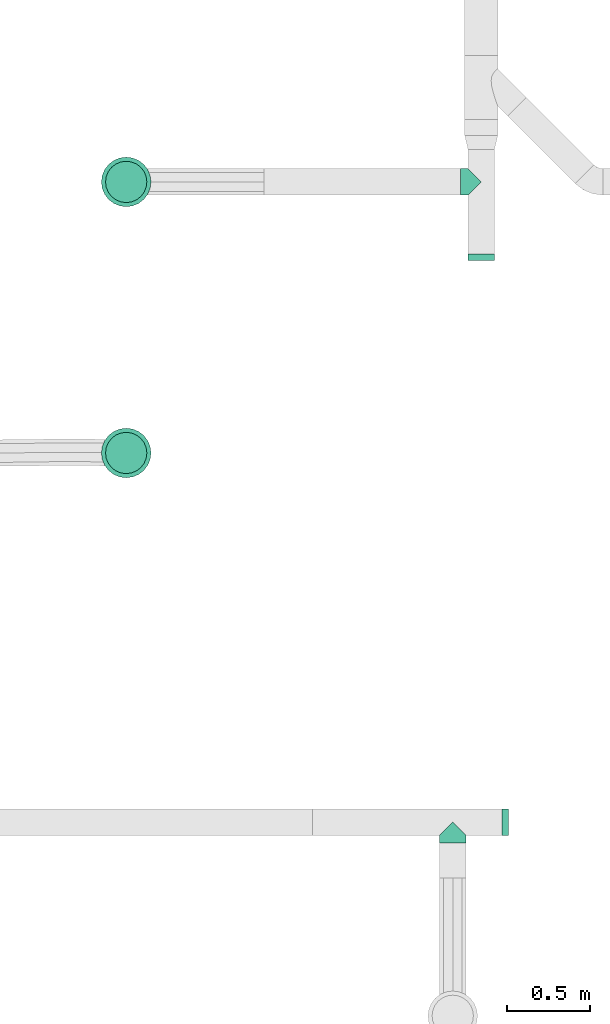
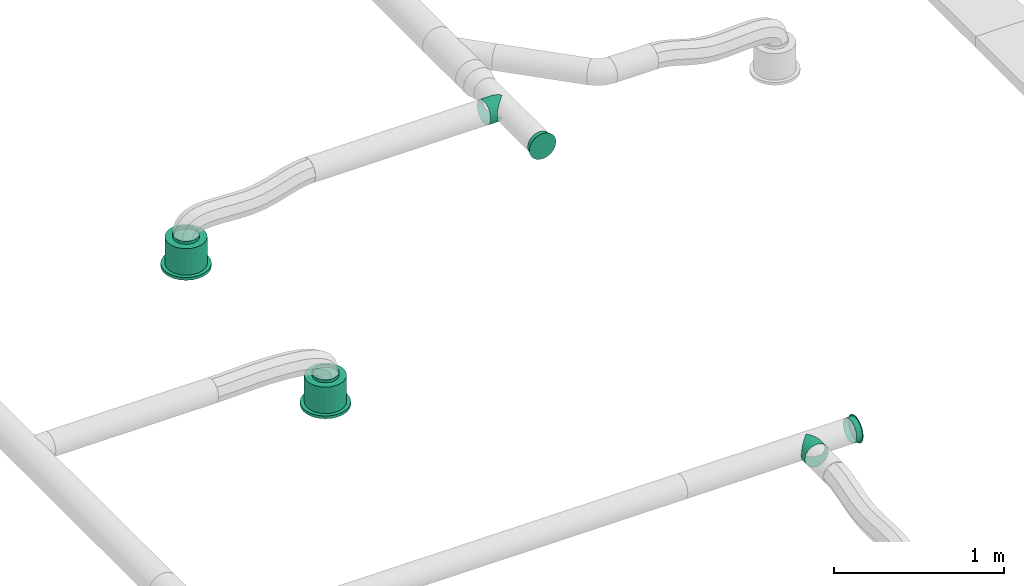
# One storey, part 8 of 119: 2 flow fittings, 2 flow segments, 2 flow terminals.
"""IFC2X3 building model written with IfcOpenShell, lengths in metres."""

from ifc_helpers import new_model, si_unit, direction, frame, origin, place, context, subcontext, project, spatial, open_shell, surface_model, source, transform, mapped, element, save


model = new_model("IFC2X3")

# Units and contexts
model_context = context("Model", 3, precision=1e-05, world=origin(), true_north=direction((-0.4480736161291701, 0.8939966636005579)))
body_context = subcontext(model_context, "Body", "Model", "MODEL_VIEW")
ifc_project = project(units=[si_unit("LENGTHUNIT", "METRE"), si_unit("AREAUNIT", "SQUARE_METRE"), si_unit("VOLUMEUNIT", "CUBIC_METRE"), si_unit("PLANEANGLEUNIT", "RADIAN"), si_unit("THERMODYNAMICTEMPERATUREUNIT", "KELVIN"), si_unit("MASSUNIT", "GRAM", prefix="KILO"), si_unit("TIMEUNIT", "SECOND")], contexts=[model_context])

# Site, building, storey
site_placement = place(None, origin())
site = spatial("IfcSite", under=ifc_project, at=site_placement, Name="Site 1", CompositionType="ELEMENT")
building_placement = place(site_placement, origin())
building = spatial("IfcBuilding", under=site, at=building_placement, Name="Undefined", CompositionType="ELEMENT")
storey_placement = place(building_placement, frame((0.0, 0.0, 5.4)))
storey = spatial("IfcBuildingStorey", under=building, at=storey_placement, Name="R+1", CompositionType="ELEMENT", Elevation=5.4)

# Flow terminals
shared_shape_1 = source(origin(), body_context, "Body", "SurfaceModel", [
    surface_model("IfcFaceBasedSurfaceModel", [(0.0, 0.0, 0.0), (0.03915785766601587, 0.0, 0.0), (0.03915785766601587, 0.020000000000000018, 0.0), (3.552713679e-15, 0.020000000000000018, 0.0), (0.07698144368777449, 0.0, -0.010134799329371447), (0.07698144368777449, 0.020000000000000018, -0.010134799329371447), (0.11089314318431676, 0.0, -0.02971372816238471), (0.11089314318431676, 0.020000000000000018, -0.02971372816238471), (0.13858192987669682, 0.0, -0.05740251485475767), (0.13858192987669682, 0.020000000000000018, -0.05740251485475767), (0.15816085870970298, 0.0, -0.09131421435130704), (0.15816085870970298, 0.020000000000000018, -0.09131421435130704), (0.16829565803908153, 0.0, -0.12913780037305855), (0.16829565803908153, 0.020000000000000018, -0.12913780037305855), (0.16829565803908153, 0.0, -0.16829565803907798), (0.16829565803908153, 0.020000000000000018, -0.16829565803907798), (0.15816085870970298, 0.0, -0.20611924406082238), (0.15816085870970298, 0.020000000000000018, -0.20611924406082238), (0.13858192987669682, 0.0, -0.24003094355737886), (0.13858192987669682, 0.020000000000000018, -0.24003094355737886), (0.11089314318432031, 0.0, -0.2677197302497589), (0.11089314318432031, 0.020000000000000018, -0.2677197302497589), (0.07698144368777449, 0.0, -0.2872986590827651), (0.07698144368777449, 0.020000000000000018, -0.2872986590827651), (0.039157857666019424, 0.0, -0.29743345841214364), (0.039157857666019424, 0.020000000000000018, -0.29743345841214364), (3.552713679e-15, 0.0, -0.29743345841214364), (3.552713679e-15, 0.020000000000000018, -0.29743345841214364), (-0.03782358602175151, 0.0, -0.2872986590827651), (-0.03782358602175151, 0.020000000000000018, -0.2872986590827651), (-0.07173528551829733, 0.0, -0.2677197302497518), (-0.07173528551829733, 0.020000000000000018, -0.2677197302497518), (-0.0994240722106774, 0.0, -0.24003094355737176), (-0.0994240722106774, 0.020000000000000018, -0.24003094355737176), (-0.11900300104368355, 0.0, -0.2061192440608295), (-0.11900300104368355, 0.020000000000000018, -0.2061192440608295), (-0.1291378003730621, 0.0, -0.16829565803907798), (-0.1291378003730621, 0.020000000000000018, -0.16829565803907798), (-0.1291378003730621, 0.0, -0.12913780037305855), (-0.1291378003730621, 0.020000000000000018, -0.12913780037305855), (-0.11900300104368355, 0.0, -0.09131421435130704), (-0.11900300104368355, 0.020000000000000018, -0.09131421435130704), (-0.0994240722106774, 0.0, -0.05740251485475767), (-0.0994240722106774, 0.020000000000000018, -0.05740251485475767), (-0.07173528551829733, 0.0, -0.029713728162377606), (-0.07173528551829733, 0.020000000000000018, -0.029713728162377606), (-0.03782358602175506, 0.0, -0.010134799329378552), (-0.03782358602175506, 0.020000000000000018, -0.010134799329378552), (0.019578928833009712, 0.0, -0.14871672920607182), (0.019578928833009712, 0.020000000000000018, -0.14871672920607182), (0.003263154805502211, 0.020000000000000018, -0.02478612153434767), (0.035894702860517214, 0.020000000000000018, -0.02478612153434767), (0.035894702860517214, 0.20999999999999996, -0.02478612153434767), (0.003263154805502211, 0.20999999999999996, -0.02478612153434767), (0.06741435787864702, 0.020000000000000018, -0.033231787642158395), (0.06741435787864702, 0.20999999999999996, -0.033231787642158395), (0.0956741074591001, 0.020000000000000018, -0.04954756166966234), (0.0956741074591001, 0.20999999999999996, -0.04954756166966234), (0.11874809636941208, 0.020000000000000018, -0.07262155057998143), (0.11874809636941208, 0.20999999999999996, -0.07262155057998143), (0.13506387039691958, 0.020000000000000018, -0.10088130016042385), (0.13506387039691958, 0.20999999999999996, -0.10088130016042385), (0.1435095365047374, 0.020000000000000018, -0.13240095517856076), (0.1435095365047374, 0.20999999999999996, -0.13240095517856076), (0.1435095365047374, 0.020000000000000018, -0.16503250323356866), (0.1435095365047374, 0.20999999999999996, -0.16503250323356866), (0.13506387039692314, 0.020000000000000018, -0.19655215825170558), (0.13506387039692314, 0.20999999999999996, -0.19655215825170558), (0.11874809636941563, 0.020000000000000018, -0.2248119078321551), (0.11874809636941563, 0.20999999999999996, -0.2248119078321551), (0.09567410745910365, 0.020000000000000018, -0.24788589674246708), (0.09567410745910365, 0.20999999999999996, -0.24788589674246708), (0.06741435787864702, 0.020000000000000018, -0.26420167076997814), (0.06741435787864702, 0.20999999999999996, -0.26420167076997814), (0.035894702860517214, 0.020000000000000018, -0.27264733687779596), (0.035894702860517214, 0.20999999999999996, -0.27264733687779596), (0.0032631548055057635, 0.020000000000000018, -0.27264733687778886), (0.0032631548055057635, 0.20999999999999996, -0.27264733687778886), (-0.028256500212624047, 0.020000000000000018, -0.26420167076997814), (-0.028256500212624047, 0.20999999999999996, -0.26420167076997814), (-0.05651624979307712, 0.020000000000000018, -0.2478858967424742), (-0.05651624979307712, 0.20999999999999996, -0.2478858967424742), (-0.07959023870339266, 0.020000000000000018, -0.2248119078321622), (-0.07959023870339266, 0.20999999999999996, -0.2248119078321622), (-0.09590601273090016, 0.020000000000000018, -0.19655215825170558), (-0.09590601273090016, 0.20999999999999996, -0.19655215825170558), (-0.10435167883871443, 0.020000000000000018, -0.16503250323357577), (-0.10435167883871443, 0.20999999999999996, -0.16503250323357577), (-0.10435167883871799, 0.020000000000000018, -0.13240095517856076), (-0.10435167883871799, 0.20999999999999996, -0.13240095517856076), (-0.09590601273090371, 0.020000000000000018, -0.10088130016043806), (-0.09590601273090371, 0.20999999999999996, -0.10088130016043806), (-0.07959023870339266, 0.020000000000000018, -0.07262155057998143), (-0.07959023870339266, 0.20999999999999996, -0.07262155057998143), (-0.056516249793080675, 0.020000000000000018, -0.04954756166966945), (-0.056516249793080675, 0.20999999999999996, -0.04954756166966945), (-0.028256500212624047, 0.020000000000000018, -0.033231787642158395), (-0.028256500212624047, 0.20999999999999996, -0.033231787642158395), (0.019578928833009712, 0.20999999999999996, -0.14871672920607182), (0.009136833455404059, 0.20999999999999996, -0.06940114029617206), (0.030021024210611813, 0.20999999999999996, -0.06940114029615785), (0.030021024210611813, 0.22999999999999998, -0.06940114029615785), (0.009136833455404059, 0.22999999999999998, -0.06940114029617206), (0.05019360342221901, 0.20999999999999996, -0.07480636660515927), (0.05019360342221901, 0.22999999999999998, -0.07480636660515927), (0.06827984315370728, 0.20999999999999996, -0.08524846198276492), (0.06827984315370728, 0.22999999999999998, -0.08524846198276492), (0.0830471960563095, 0.20999999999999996, -0.10001581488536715), (0.0830471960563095, 0.22999999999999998, -0.10001581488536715), (0.0934892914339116, 0.20999999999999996, -0.11810205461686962), (0.0934892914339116, 0.22999999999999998, -0.11810205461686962), (0.09889451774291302, 0.20999999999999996, -0.13827463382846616), (0.09889451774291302, 0.22999999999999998, -0.13827463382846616), (0.09889451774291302, 0.20999999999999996, -0.15915882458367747), (0.09889451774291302, 0.22999999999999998, -0.15915882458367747), (0.09348929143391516, 0.20999999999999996, -0.179331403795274), (0.09348929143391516, 0.22999999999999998, -0.179331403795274), (0.0830471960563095, 0.20999999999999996, -0.19741764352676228), (0.0830471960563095, 0.22999999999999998, -0.19741764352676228), (0.06827984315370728, 0.20999999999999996, -0.2121849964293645), (0.06827984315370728, 0.22999999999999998, -0.2121849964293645), (0.05019360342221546, 0.20999999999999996, -0.22262709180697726), (0.05019360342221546, 0.22999999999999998, -0.22262709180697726), (0.030021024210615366, 0.20999999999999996, -0.22803231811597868), (0.030021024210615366, 0.22999999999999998, -0.22803231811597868), (0.009136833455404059, 0.20999999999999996, -0.22803231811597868), (0.009136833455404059, 0.22999999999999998, -0.22803231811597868), (-0.011035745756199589, 0.20999999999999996, -0.22262709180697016), (-0.011035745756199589, 0.22999999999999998, -0.22262709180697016), (-0.0291219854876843, 0.20999999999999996, -0.2121849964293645), (-0.0291219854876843, 0.22999999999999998, -0.2121849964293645), (-0.043889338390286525, 0.20999999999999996, -0.19741764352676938), (-0.043889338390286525, 0.22999999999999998, -0.19741764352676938), (-0.05433143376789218, 0.20999999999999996, -0.17933140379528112), (-0.05433143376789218, 0.22999999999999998, -0.17933140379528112), (-0.05973666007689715, 0.20999999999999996, -0.15915882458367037), (-0.05973666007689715, 0.22999999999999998, -0.15915882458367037), (-0.0597366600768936, 0.20999999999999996, -0.13827463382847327), (-0.0597366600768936, 0.22999999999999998, -0.13827463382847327), (-0.05433143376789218, 0.20999999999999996, -0.11810205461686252), (-0.05433143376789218, 0.22999999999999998, -0.11810205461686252), (-0.043889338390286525, 0.20999999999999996, -0.10001581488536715), (-0.043889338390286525, 0.22999999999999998, -0.10001581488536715), (-0.02912198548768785, 0.20999999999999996, -0.08524846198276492), (-0.02912198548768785, 0.22999999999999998, -0.08524846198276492), (-0.011035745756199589, 0.20999999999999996, -0.07480636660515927), (-0.011035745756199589, 0.22999999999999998, -0.07480636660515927)], [open_shell([[[0, 1, 2, 3]], [[1, 4, 5, 2]], [[4, 6, 7, 5]], [[6, 8, 9, 7]], [[8, 10, 11, 9]], [[10, 12, 13, 11]], [[12, 14, 15, 13]], [[14, 16, 17, 15]], [[16, 18, 19, 17]], [[18, 20, 21, 19]], [[20, 22, 23, 21]], [[22, 24, 25, 23]], [[24, 26, 27, 25]], [[26, 28, 29, 27]], [[28, 30, 31, 29]], [[30, 32, 33, 31]], [[32, 34, 35, 33]], [[34, 36, 37, 35]], [[36, 38, 39, 37]], [[38, 40, 41, 39]], [[40, 42, 43, 41]], [[42, 44, 45, 43]], [[44, 46, 47, 45]], [[46, 0, 3, 47]], [[48, 1, 0]], [[48, 4, 1]], [[48, 6, 4]], [[48, 8, 6]], [[48, 10, 8]], [[48, 12, 10]], [[48, 14, 12]], [[48, 16, 14]], [[48, 18, 16]], [[48, 20, 18]], [[48, 22, 20]], [[48, 24, 22]], [[48, 26, 24]], [[48, 28, 26]], [[48, 30, 28]], [[48, 32, 30]], [[48, 34, 32]], [[48, 36, 34]], [[48, 38, 36]], [[48, 40, 38]], [[48, 42, 40]], [[48, 44, 42]], [[48, 46, 44]], [[48, 0, 46]], [[49, 47, 3]], [[49, 45, 47]], [[49, 43, 45]], [[49, 41, 43]], [[49, 39, 41]], [[49, 37, 39]], [[49, 35, 37]], [[49, 33, 35]], [[49, 31, 33]], [[49, 29, 31]], [[49, 27, 29]], [[49, 25, 27]], [[49, 23, 25]], [[49, 21, 23]], [[49, 19, 21]], [[49, 17, 19]], [[49, 15, 17]], [[49, 13, 15]], [[49, 11, 13]], [[49, 9, 11]], [[49, 7, 9]], [[49, 5, 7]], [[49, 2, 5]], [[49, 3, 2]], [[50, 51, 52, 53]], [[51, 54, 55, 52]], [[54, 56, 57, 55]], [[56, 58, 59, 57]], [[58, 60, 61, 59]], [[60, 62, 63, 61]], [[62, 64, 65, 63]], [[64, 66, 67, 65]], [[66, 68, 69, 67]], [[68, 70, 71, 69]], [[70, 72, 73, 71]], [[72, 74, 75, 73]], [[74, 76, 77, 75]], [[76, 78, 79, 77]], [[78, 80, 81, 79]], [[80, 82, 83, 81]], [[82, 84, 85, 83]], [[84, 86, 87, 85]], [[86, 88, 89, 87]], [[88, 90, 91, 89]], [[90, 92, 93, 91]], [[92, 94, 95, 93]], [[94, 96, 97, 95]], [[96, 50, 53, 97]], [[49, 51, 50]], [[49, 54, 51]], [[49, 56, 54]], [[49, 58, 56]], [[49, 60, 58]], [[49, 62, 60]], [[49, 64, 62]], [[49, 66, 64]], [[49, 68, 66]], [[49, 70, 68]], [[49, 72, 70]], [[49, 74, 72]], [[49, 76, 74]], [[49, 78, 76]], [[49, 80, 78]], [[49, 82, 80]], [[49, 84, 82]], [[49, 86, 84]], [[49, 88, 86]], [[49, 90, 88]], [[49, 92, 90]], [[49, 94, 92]], [[49, 96, 94]], [[49, 50, 96]], [[98, 97, 53]], [[98, 95, 97]], [[98, 93, 95]], [[98, 91, 93]], [[98, 89, 91]], [[98, 87, 89]], [[98, 85, 87]], [[98, 83, 85]], [[98, 81, 83]], [[98, 79, 81]], [[98, 77, 79]], [[98, 75, 77]], [[98, 73, 75]], [[98, 71, 73]], [[98, 69, 71]], [[98, 67, 69]], [[98, 65, 67]], [[98, 63, 65]], [[98, 61, 63]], [[98, 59, 61]], [[98, 57, 59]], [[98, 55, 57]], [[98, 52, 55]], [[98, 53, 52]], [[99, 100, 101, 102]], [[100, 103, 104, 101]], [[103, 105, 106, 104]], [[105, 107, 108, 106]], [[107, 109, 110, 108]], [[109, 111, 112, 110]], [[111, 113, 114, 112]], [[113, 115, 116, 114]], [[115, 117, 118, 116]], [[117, 119, 120, 118]], [[119, 121, 122, 120]], [[121, 123, 124, 122]], [[123, 125, 126, 124]], [[125, 127, 128, 126]], [[127, 129, 130, 128]], [[129, 131, 132, 130]], [[131, 133, 134, 132]], [[133, 135, 136, 134]], [[135, 137, 138, 136]], [[137, 139, 140, 138]], [[139, 141, 142, 140]], [[141, 143, 144, 142]], [[143, 145, 146, 144]], [[145, 99, 102, 146]]])]),
])
flow_terminal_1_placement = place(storey_placement, origin())
element("IfcFlowTerminal", 1, at=flow_terminal_1_placement, inside=storey, Name="Air diffuseur - bouche", ObjectType="Air diffuseur - bouche", context=body_context, shape_type="MappedRepresentation", body=[
    mapped(shared_shape_1, transform((4.46331471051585, 10.925483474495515, 2.38), x_axis=(-0.13052619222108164, 0.9914448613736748, 0.0), y_axis=(0.0, 0.0, 1.0), z_axis=(0.9914448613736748, 0.13052619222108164, 0.0))),
])
flow_terminal_2_placement = place(storey_placement, origin())
element("IfcFlowTerminal", 2, at=flow_terminal_2_placement, inside=storey, Name="Air diffuseur - bouche", ObjectType="Air diffuseur - bouche", context=body_context, shape_type="MappedRepresentation", body=[
    mapped(shared_shape_1, transform((4.463314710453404, 9.28536999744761, 2.38), x_axis=(-0.13052619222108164, 0.9914448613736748, 0.0), y_axis=(0.0, 0.0, 1.0), z_axis=(0.9914448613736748, 0.13052619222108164, 0.0))),
])

# Flow segments
shared_shape_2 = source(origin(), body_context, "Body", "SurfaceModel", [
    surface_model("IfcFaceBasedSurfaceModel", [(0.0027259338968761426, 0.020884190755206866, 0.0), (0.0, 0.0, 0.0), (0.04772593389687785, 0.0, 0.0), (0.04772593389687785, 0.020884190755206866, 0.0), (-0.007992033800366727, -0.02017257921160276, -0.005405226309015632), (0.04772593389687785, -0.02017257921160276, -0.005405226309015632), (-0.020705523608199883, -0.038258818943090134, -0.015847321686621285), (0.04772593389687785, -0.038258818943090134, -0.015847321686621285), (-0.037274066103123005, -0.05302617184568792, -0.03061467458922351), (0.04772593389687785, -0.05302617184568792, -0.03061467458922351), (-0.05656854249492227, -0.06346826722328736, -0.04870091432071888), (0.04772593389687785, -0.06346826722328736, -0.04870091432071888), (-0.07727406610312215, -0.06887349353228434, -0.06887349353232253), (0.04772593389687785, -0.06887349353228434, -0.06887349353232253), (-0.05656854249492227, -0.06887349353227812, -0.08975768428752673), (0.04772593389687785, -0.06887349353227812, -0.08975768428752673), (-0.037274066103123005, -0.06346826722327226, -0.10993026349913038), (0.04772593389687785, -0.06346826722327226, -0.10993026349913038), (-0.020705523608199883, -0.05302617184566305, -0.12801650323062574), (0.04772593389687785, -0.05302617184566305, -0.12801650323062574), (-0.007992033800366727, -0.03825881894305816, -0.14278385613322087), (0.04772593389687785, -0.03825881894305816, -0.14278385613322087), (0.0, -0.020172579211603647, -0.15322595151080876), (0.04772593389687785, -0.020172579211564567, -0.1532259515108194), (0.0027259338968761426, 3.9968028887e-14, -0.15863117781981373), (0.04772593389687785, 3.9968028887e-14, -0.15863117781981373), (0.0, 0.020884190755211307, -0.15863117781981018), (0.04772593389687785, 0.020884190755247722, -0.15863117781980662), (-0.007992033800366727, 0.04105676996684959, -0.1532259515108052), (0.04772593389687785, 0.04105676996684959, -0.1532259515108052), (-0.020705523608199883, 0.05914300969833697, -0.14278385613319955), (0.04772593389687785, 0.05914300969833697, -0.14278385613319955), (-0.037274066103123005, 0.07391036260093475, -0.1280165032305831), (0.04772593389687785, 0.07391036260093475, -0.1280165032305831), (-0.05656854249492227, 0.08435245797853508, -0.10993026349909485), (0.04772593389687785, 0.08435245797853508, -0.10993026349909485), (-0.07727406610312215, 0.08975768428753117, -0.0897576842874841), (0.04772593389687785, 0.08975768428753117, -0.0897576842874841), (-0.05656854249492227, 0.08975768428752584, -0.068873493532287), (0.04772593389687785, 0.08975768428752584, -0.068873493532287), (-0.037274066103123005, 0.0843524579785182, -0.04870091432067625), (0.04772593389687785, 0.0843524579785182, -0.04870091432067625), (-0.020705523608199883, 0.07391036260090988, -0.03061467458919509), (0.04772593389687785, 0.07391036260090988, -0.03061467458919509), (-0.007992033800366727, 0.059143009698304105, -0.01584732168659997), (0.04772593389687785, 0.059143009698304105, -0.01584732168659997), (0.0, 0.04105676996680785, -0.005405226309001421), (0.04772593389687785, 0.04105676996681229, -0.00540522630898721)], [open_shell([[[0, 1, 2, 3]], [[1, 4, 5, 2]], [[4, 6, 7, 5]], [[6, 8, 9, 7]], [[8, 10, 11, 9]], [[10, 12, 13, 11]], [[12, 14, 15, 13]], [[14, 16, 17, 15]], [[16, 18, 19, 17]], [[18, 20, 21, 19]], [[20, 22, 23, 21]], [[22, 24, 25, 23]], [[24, 26, 27, 25]], [[26, 28, 29, 27]], [[28, 30, 31, 29]], [[30, 32, 33, 31]], [[32, 34, 35, 33]], [[34, 36, 37, 35]], [[36, 38, 39, 37]], [[38, 40, 41, 39]], [[40, 42, 43, 41]], [[42, 44, 45, 43]], [[44, 46, 47, 45]], [[46, 0, 3, 47]]])]),
])
flow_segment_1_placement = place(storey_placement, origin())
element("IfcFlowSegment", 3, at=flow_segment_1_placement, inside=storey, Name="Piquage équerre circulaire", ObjectType="Piquage équerre circulaire", context=body_context, shape_type="MappedRepresentation", body=[
    mapped(shared_shape_2, transform((6.366512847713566, 6.974083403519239, 2.7707055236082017), x_axis=(0.0, -1.0, 0.0), y_axis=(0.130526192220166, 0.0, -0.9914448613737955), z_axis=(0.9914448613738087, 0.0, 0.13052619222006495))),
])
flow_segment_2_placement = place(storey_placement, origin())
element("IfcFlowSegment", 4, at=flow_segment_2_placement, inside=storey, Name="Piquage équerre circulaire", ObjectType="Piquage équerre circulaire", context=body_context, shape_type="MappedRepresentation", body=[
    mapped(shared_shape_2, transform((6.38438815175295, 10.848209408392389, 2.7957055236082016), x_axis=(-1.0, 0.0, 0.0), y_axis=(9.56658874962e-13, -0.13052619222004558, -0.9914448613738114), z_axis=(7.266545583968e-12, -0.9914448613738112, 0.13052619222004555))),
])

# Flow fittings
shared_shape_3 = source(origin(), body_context, "Body", "SurfaceModel", [
    surface_model("IfcFaceBasedSurfaceModel", [(0.0, 0.020884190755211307, 0.0), (0.0, 0.0, 0.0), (0.0394000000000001, 0.0, 0.0), (0.039400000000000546, 0.020884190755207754, 8.8817842e-16), (0.0, -0.020172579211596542, -0.005405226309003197), (0.039400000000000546, -0.020172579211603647, -0.005405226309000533), (0.0, -0.03825881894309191, -0.015847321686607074), (0.039400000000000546, -0.03825881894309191, -0.015847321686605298), (0.0, -0.05302617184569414, -0.0306146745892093), (0.039400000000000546, -0.05302617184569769, -0.030614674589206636), (0.0, -0.06346826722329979, -0.04870091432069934), (0.039400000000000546, -0.06346826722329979, -0.048700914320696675), (0.0, -0.06887349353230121, -0.06887349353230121), (0.039400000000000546, -0.06887349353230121, -0.06887349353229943), (0.0, -0.06887349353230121, -0.08975768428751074), (0.039400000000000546, -0.06887349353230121, -0.08975768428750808), (0.0, -0.06346826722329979, -0.10993026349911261), (0.039400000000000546, -0.06346826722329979, -0.10993026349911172), (0.0, -0.05302617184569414, -0.12801650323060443), (0.039400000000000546, -0.05302617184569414, -0.12801650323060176), (0.0, -0.038258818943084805, -0.14278385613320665), (0.039400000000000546, -0.03825881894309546, -0.1427838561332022), (0.0, -0.020172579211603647, -0.15322595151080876), (0.039400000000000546, -0.020172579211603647, -0.1532259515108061), (0.0, 7.105427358e-15, -0.15863117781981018), (0.039400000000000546, 0.0, -0.1586311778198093), (0.0, 0.020884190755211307, -0.15863117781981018), (0.039400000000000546, 0.020884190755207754, -0.1586311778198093), (0.0, 0.04105676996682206, -0.15322595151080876), (0.039400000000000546, 0.04105676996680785, -0.15322595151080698), (0.0, 0.05914300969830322, -0.1427838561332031), (0.039400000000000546, 0.059143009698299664, -0.1427838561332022), (0.0, 0.07391036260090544, -0.12801650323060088), (0.039400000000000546, 0.07391036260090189, -0.12801650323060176), (0.0, 0.0843524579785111, -0.10993026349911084), (0.039400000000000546, 0.08435245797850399, -0.10993026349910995), (0.0, 0.08975768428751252, -0.08975768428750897), (0.039400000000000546, 0.08975768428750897, -0.08975768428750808), (0.0, 0.08975768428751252, -0.06887349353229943), (0.039400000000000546, 0.08975768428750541, -0.06887349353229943), (0.0, 0.0843524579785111, -0.048700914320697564), (0.039400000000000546, 0.08435245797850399, -0.048700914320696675), (0.0, 0.07391036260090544, -0.030614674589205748), (0.039400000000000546, 0.07391036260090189, -0.030614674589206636), (0.0, 0.05914300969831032, -0.015847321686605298), (0.039400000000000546, 0.059143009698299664, -0.015847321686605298), (0.0, 0.04105676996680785, -0.005405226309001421), (0.039400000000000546, 0.0410567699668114, -0.005405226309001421), (0.039400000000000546, 0.022254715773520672, 0.010410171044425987), (0.0394000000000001, -0.0013705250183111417, 0.010410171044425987), (0.040000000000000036, -0.0013705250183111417, 0.010410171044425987), (0.03999999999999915, 0.022254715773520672, 0.010410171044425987), (0.039400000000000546, -0.0241907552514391, 0.0042955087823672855), (0.03999999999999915, -0.0241907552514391, 0.0042955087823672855), (0.039400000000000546, -0.044650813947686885, -0.007517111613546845), (0.03999999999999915, -0.044650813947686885, -0.007517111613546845), (0.039400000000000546, -0.06135638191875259, -0.024222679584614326), (0.03999999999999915, -0.06135638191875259, -0.024222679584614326), (0.039400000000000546, -0.07316900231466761, -0.044682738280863), (0.03999999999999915, -0.07316900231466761, -0.044682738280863), (0.039400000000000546, -0.07928366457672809, -0.06750296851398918), (0.03999999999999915, -0.07928366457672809, -0.06750296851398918), (0.039400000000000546, -0.07928366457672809, -0.09112820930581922), (0.03999999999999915, -0.07928366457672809, -0.09112820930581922), (0.039400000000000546, -0.07316900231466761, -0.11394843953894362), (0.03999999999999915, -0.07316900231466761, -0.11394843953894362), (0.039400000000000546, -0.06135638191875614, -0.13440849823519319), (0.03999999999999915, -0.06135638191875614, -0.13440849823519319), (0.039400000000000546, -0.044650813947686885, -0.15111406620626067), (0.03999999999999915, -0.044650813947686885, -0.15111406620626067), (0.039400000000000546, -0.0241907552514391, -0.16292668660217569), (0.03999999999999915, -0.0241907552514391, -0.16292668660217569), (0.039400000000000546, -0.0013705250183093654, -0.1690413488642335), (0.03999999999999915, -0.0013705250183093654, -0.1690413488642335), (0.039400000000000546, 0.02225471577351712, -0.1690413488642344), (0.03999999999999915, 0.02225471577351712, -0.1690413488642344), (0.039400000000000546, 0.0450749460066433, -0.16292668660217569), (0.03999999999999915, 0.0450749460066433, -0.16292668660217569), (0.039400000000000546, 0.06553500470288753, -0.15111406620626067), (0.03999999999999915, 0.06553500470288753, -0.15111406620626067), (0.039400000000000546, 0.08224057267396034, -0.13440849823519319), (0.03999999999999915, 0.08224057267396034, -0.13440849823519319), (0.039400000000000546, 0.09405319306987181, -0.1139484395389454), (0.03999999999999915, 0.09405319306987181, -0.1139484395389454), (0.039400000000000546, 0.10016785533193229, -0.09112820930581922), (0.03999999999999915, 0.10016785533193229, -0.09112820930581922), (0.039400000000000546, 0.10016785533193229, -0.06750296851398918), (0.03999999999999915, 0.10016785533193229, -0.06750296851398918), (0.039400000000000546, 0.09405319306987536, -0.044682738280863), (0.03999999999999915, 0.09405319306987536, -0.044682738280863), (0.039400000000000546, 0.08224057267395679, -0.024222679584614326), (0.03999999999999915, 0.08224057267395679, -0.024222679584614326), (0.039400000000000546, 0.06553500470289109, -0.007517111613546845), (0.03999999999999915, 0.06553500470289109, -0.007517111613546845), (0.039400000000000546, 0.0450749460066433, 0.0042955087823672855), (0.03999999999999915, 0.0450749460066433, 0.0042955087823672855), (0.039400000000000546, 0.010442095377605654, -0.0793155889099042), (0.03999999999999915, 0.010442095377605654, -0.0793155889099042)], [open_shell([[[0, 1, 2, 3]], [[1, 4, 5, 2]], [[4, 6, 7, 5]], [[6, 8, 9, 7]], [[8, 10, 11, 9]], [[10, 12, 13, 11]], [[12, 14, 15, 13]], [[14, 16, 17, 15]], [[16, 18, 19, 17]], [[18, 20, 21, 19]], [[20, 22, 23, 21]], [[22, 24, 25, 23]], [[24, 26, 27, 25]], [[26, 28, 29, 27]], [[28, 30, 31, 29]], [[30, 32, 33, 31]], [[32, 34, 35, 33]], [[34, 36, 37, 35]], [[36, 38, 39, 37]], [[38, 40, 41, 39]], [[40, 42, 43, 41]], [[42, 44, 45, 43]], [[44, 46, 47, 45]], [[46, 0, 3, 47]], [[48, 49, 50, 51]], [[49, 52, 53, 50]], [[52, 54, 55, 53]], [[54, 56, 57, 55]], [[56, 58, 59, 57]], [[58, 60, 61, 59]], [[60, 62, 63, 61]], [[62, 64, 65, 63]], [[64, 66, 67, 65]], [[66, 68, 69, 67]], [[68, 70, 71, 69]], [[70, 72, 73, 71]], [[72, 74, 75, 73]], [[74, 76, 77, 75]], [[76, 78, 79, 77]], [[78, 80, 81, 79]], [[80, 82, 83, 81]], [[82, 84, 85, 83]], [[84, 86, 87, 85]], [[86, 88, 89, 87]], [[88, 90, 91, 89]], [[90, 92, 93, 91]], [[92, 94, 95, 93]], [[94, 48, 51, 95]], [[96, 49, 48]], [[96, 52, 49]], [[96, 54, 52]], [[96, 56, 54]], [[96, 58, 56]], [[96, 60, 58]], [[96, 62, 60]], [[96, 64, 62]], [[96, 66, 64]], [[96, 68, 66]], [[96, 70, 68]], [[96, 72, 70]], [[96, 74, 72]], [[96, 76, 74]], [[96, 78, 76]], [[96, 80, 78]], [[96, 82, 80]], [[96, 84, 82]], [[96, 86, 84]], [[96, 88, 86]], [[96, 90, 88]], [[96, 92, 90]], [[96, 94, 92]], [[96, 48, 94]], [[97, 95, 51]], [[97, 93, 95]], [[97, 91, 93]], [[97, 89, 91]], [[97, 87, 89]], [[97, 85, 87]], [[97, 83, 85]], [[97, 81, 83]], [[97, 79, 81]], [[97, 77, 79]], [[97, 75, 77]], [[97, 73, 75]], [[97, 71, 73]], [[97, 69, 71]], [[97, 67, 69]], [[97, 65, 67]], [[97, 63, 65]], [[97, 61, 63]], [[97, 59, 61]], [[97, 57, 59]], [[97, 55, 57]], [[97, 53, 55]], [[97, 50, 53]], [[97, 51, 50]]])]),
])
flow_fitting_1_placement = place(storey_placement, origin())
element("IfcFlowFitting", 5, at=flow_fitting_1_placement, inside=storey, Name="Enddeckel", ObjectType="Enddeckel", context=body_context, shape_type="MappedRepresentation", body=[
    mapped(shared_shape_3, transform((6.586182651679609, 7.030651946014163, 2.8272740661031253), x_axis=(1.0, 0.0, 0.0), y_axis=(0.0, 0.9914448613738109, 0.1305261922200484), z_axis=(0.0, -0.1305261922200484, 0.9914448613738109))),
])
flow_fitting_2_placement = place(storey_placement, origin())
element("IfcFlowFitting", 6, at=flow_fitting_2_placement, inside=storey, Name="Enddeckel", ObjectType="Enddeckel", context=body_context, shape_type="MappedRepresentation", body=[
    mapped(shared_shape_3, transform((6.440956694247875, 10.490219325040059, 2.852274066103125), x_axis=(0.0, -1.0, 0.0), y_axis=(0.9914448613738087, 0.0, 0.13052619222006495), z_axis=(-0.13052619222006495, 0.0, 0.9914448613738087))),
])

save(model, "model.ifc")
